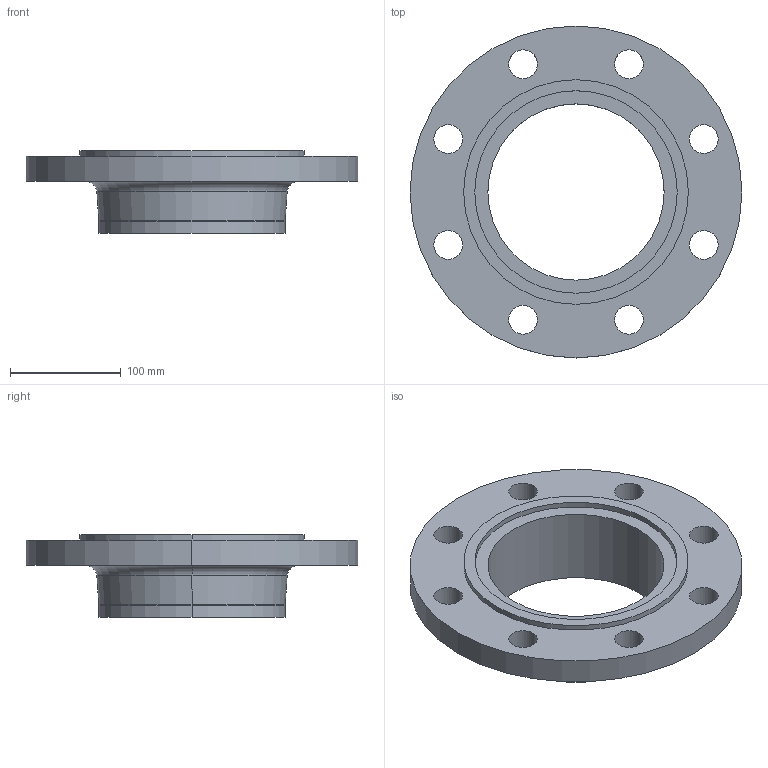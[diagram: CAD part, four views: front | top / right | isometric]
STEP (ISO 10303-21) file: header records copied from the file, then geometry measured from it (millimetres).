
FILE_DESCRIPTION (( 'STEP AP214' ), '1' );
FILE_NAME ('PN40 DN150 Type 11 - Type C Face.STEP', '2019-01-05T00:11:23', ( '' ), ( '' ), 'SwSTEP 2.0', 'SolidWorks 2019', '' );
FILE_SCHEMA (( 'AUTOMOTIVE_DESIGN' ));
Length unit declared in the file: millimetre
Products named in the file (1): PN40 DN150 Type 11 - Type C Face
Bounding box: 300 x 300 x 75 mm (x, y, z)
Volume: 1242932.1 mm3; surface area: 192700.8 mm2
Topology: 1 solids, 1 shells, 37 faces, 90 edges, 58 vertices
Faces by surface type: cylinder 26, plane 5, torus 4, cone 2
Entity records: 1188 total; most frequent: DIRECTION 228, CARTESIAN_POINT 186, ORIENTED_EDGE 180, AXIS2_PLACEMENT_3D 100, EDGE_CURVE 90, CIRCLE 62, EDGE_LOOP 58, VERTEX_POINT 58
